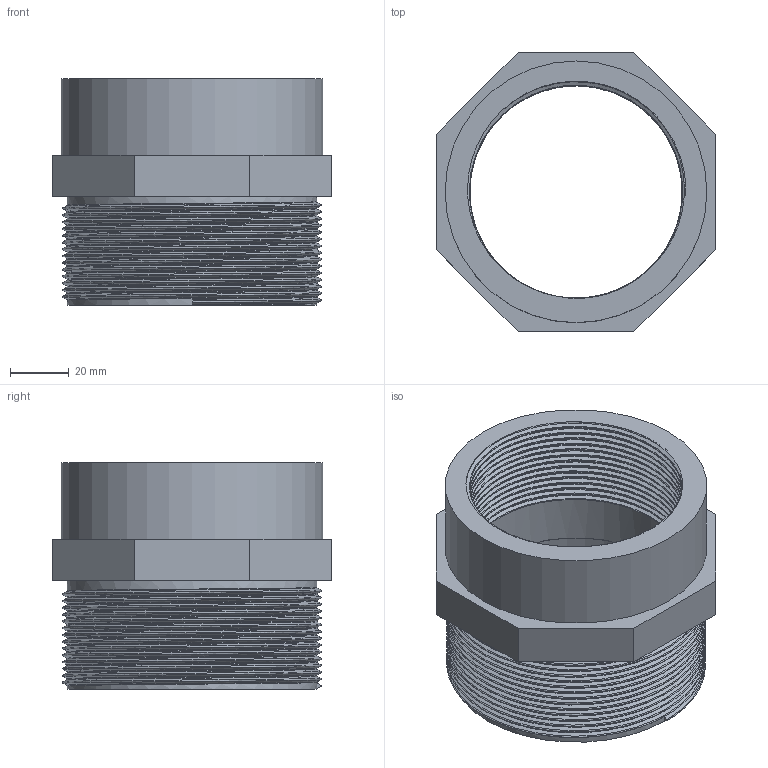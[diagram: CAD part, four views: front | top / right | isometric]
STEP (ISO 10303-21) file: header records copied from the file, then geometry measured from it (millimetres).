
FILE_DESCRIPTION(/* description */ (''),/* implementation_level */ '2;1');
FILE_NAME(/* name */ 'C:\Users\POLYPIPE\Desktop\DATASET INVENTOR\LIBRERIA EFFAST\RACCORDI 3DxWEB\RER\3D_RERRIE\3D_RERRIE090H.stp',/* time_stamp */ '2018-01-19T17:13:48+01:00',/* author */ ('POLYPIPE'),/* organization */ ('Polypipe Italia'),/* preprocessor_version */ 'ST-DEVELOPER v16.1',/* originating_system */ 'Autodesk Inventor 2016',/* authorisation */ '');
FILE_SCHEMA (('CONFIG_CONTROL_DESIGN'));
Length unit declared in the file: millimetre
Products named in the file (1): 3D_RERRIE090H
Bounding box: 95 x 95 x 77 mm (x, y, z)
Volume: 159179.3 mm3; surface area: 57481.4 mm2
Topology: 1 solids, 1 shells, 31 faces, 73 edges, 47 vertices
Faces by surface type: plane 16, bspline 10, cylinder 5
Full cylindrical faces by diameter (mm): 72.226 x1, 73 x1, 84.926 x2, 89 x1
Entity records: 11276 total; most frequent: CARTESIAN_POINT 10613, ORIENTED_EDGE 134, DIRECTION 109, EDGE_CURVE 67, VERTEX_POINT 45, EDGE_LOOP 40, AXIS2_PLACEMENT_3D 38, LINE 33
